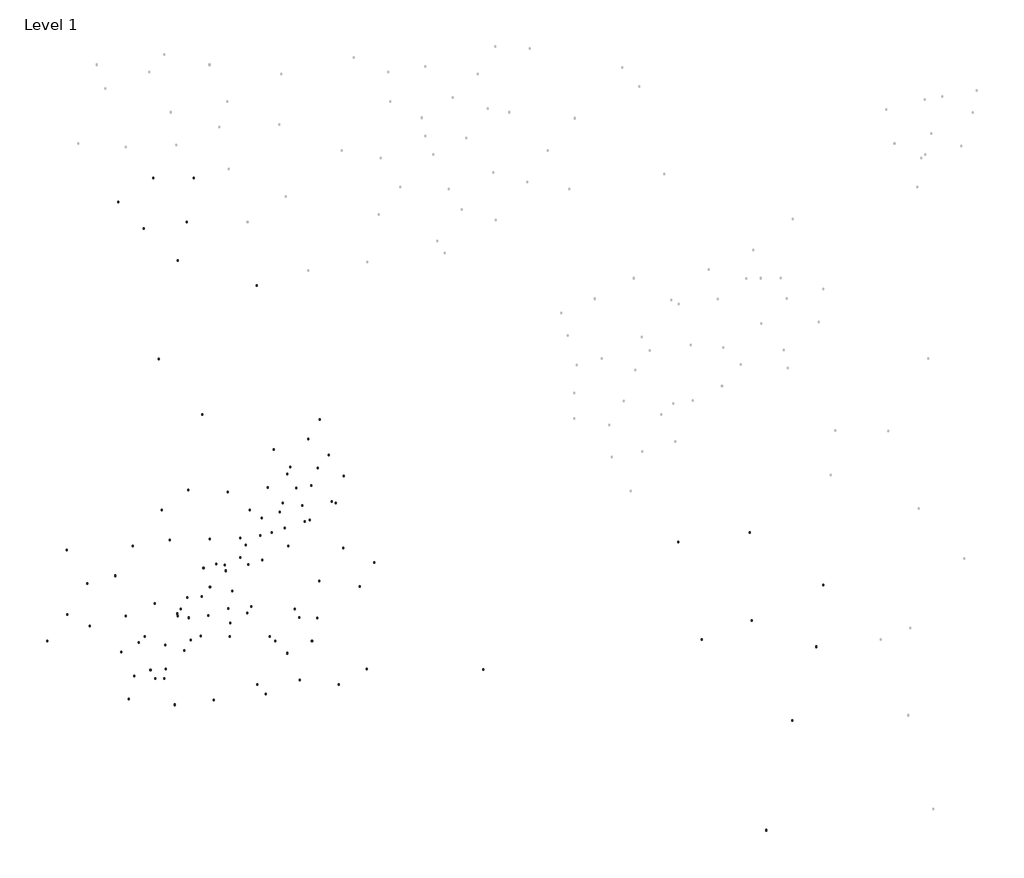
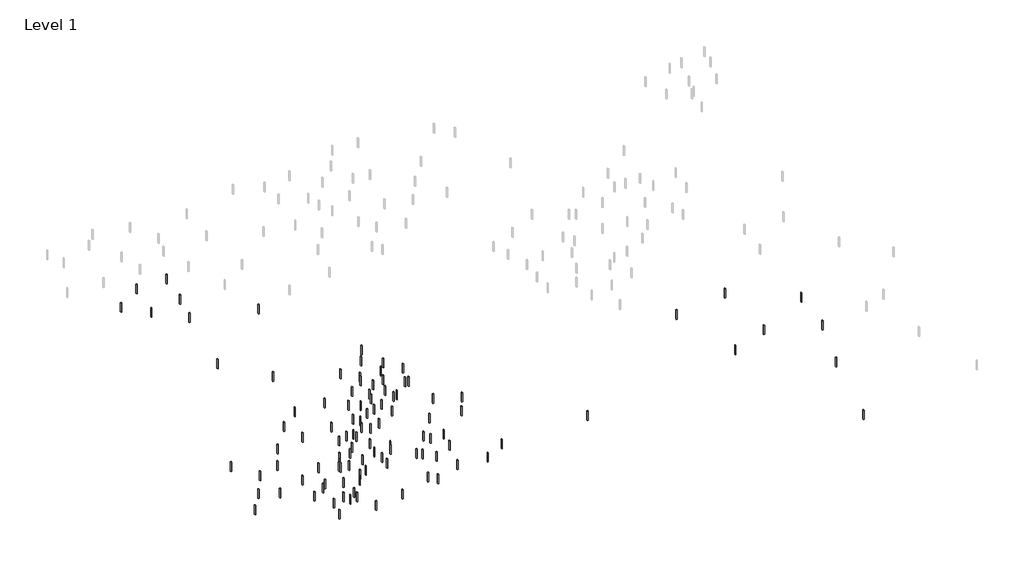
# One storey, part 1 of 3: 110 columns.
"""IFC4 building model written with IfcOpenShell, lengths in millimetres."""

from ifc_helpers import new_model, si_unit, origin, place, context, project, spatial, transform, mapped, element, save
from components import concrete_rectangular_column_12_x_18_4e544043

model = new_model("IFC4")

# Units and contexts
model_context = context("Model", 3, world=origin())
ifc_project = project(units=[si_unit("LENGTHUNIT", "METRE", prefix="MILLI")], contexts=[model_context])

# Site, building, storey
site = spatial("IfcSite", under=ifc_project)
building = spatial("IfcBuilding", under=site)
storey = spatial("IfcBuildingStorey", under=building, Name="Level 1", Elevation=0.0)

# Columns
placement = place(None, origin())
concrete_rectangular_column_12_x_18_shape = concrete_rectangular_column_12_x_18_4e544043(model_context)
element("IfcColumn", 1, ObjectType="Concrete-Rectangular-Column : 12 x 18", at=placement, inside=storey, context=model_context, shape_type="MappedRepresentation", body=[
    mapped(concrete_rectangular_column_12_x_18_shape, transform((108236.3746611, 134663.9156504, 0.0), x_axis=(1.0, 0.0, 0.0), y_axis=(0.0, 1.0, 0.0), z_axis=(0.0, 0.0, 1.0))),
])
element("IfcColumn", 2, ObjectType="Concrete-Rectangular-Column : 12 x 18", at=placement, inside=storey, context=model_context, shape_type="MappedRepresentation", body=[
    mapped(concrete_rectangular_column_12_x_18_shape, transform((96676.8386469, 121200.4411543, 0.0), x_axis=(1.0, 0.0, 0.0), y_axis=(0.0, 1.0, 0.0), z_axis=(0.0, 0.0, 1.0))),
])
element("IfcColumn", 3, ObjectType="Concrete-Rectangular-Column : 12 x 18", at=placement, inside=storey, context=model_context, shape_type="MappedRepresentation", body=[
    mapped(concrete_rectangular_column_12_x_18_shape, transform((31704.274153, 102630.1315046, 0.0), x_axis=(1.0, 0.0, 0.0), y_axis=(0.0, 1.0, 0.0), z_axis=(0.0, 0.0, 1.0))),
])
element("IfcColumn", 4, ObjectType="Concrete-Rectangular-Column : 12 x 18", at=placement, inside=storey, context=model_context, shape_type="MappedRepresentation", body=[
    mapped(concrete_rectangular_column_12_x_18_shape, transform((41944.8959136, 82237.322074, 0.0), x_axis=(1.0, 0.0, 0.0), y_axis=(0.0, 1.0, 0.0), z_axis=(0.0, 0.0, 1.0))),
])
element("IfcColumn", 5, ObjectType="Concrete-Rectangular-Column : 12 x 18", at=placement, inside=storey, context=model_context, shape_type="MappedRepresentation", body=[
    mapped(concrete_rectangular_column_12_x_18_shape, transform((19746.1334487, 85452.5950785, 0.0), x_axis=(1.0, 0.0, 0.0), y_axis=(0.0, 1.0, 0.0), z_axis=(0.0, 0.0, 1.0))),
])
element("IfcColumn", 6, ObjectType="Concrete-Rectangular-Column : 12 x 18", at=placement, inside=storey, context=model_context, shape_type="MappedRepresentation", body=[
    mapped(concrete_rectangular_column_12_x_18_shape, transform((57889.0835194, 66452.5588717, 0.0), x_axis=(1.0, 0.0, 0.0), y_axis=(0.0, 1.0, 0.0), z_axis=(0.0, 0.0, 1.0))),
])
element("IfcColumn", 7, ObjectType="Concrete-Rectangular-Column : 12 x 18", at=placement, inside=storey, context=model_context, shape_type="MappedRepresentation", body=[
    mapped(concrete_rectangular_column_12_x_18_shape, transform((54700.2459982, 74344.9404728, 0.0), x_axis=(1.0, 0.0, 0.0), y_axis=(0.0, 1.0, 0.0), z_axis=(0.0, 0.0, 1.0))),
])
element("IfcColumn", 8, ObjectType="Concrete-Rectangular-Column : 12 x 18", at=placement, inside=storey, context=model_context, shape_type="MappedRepresentation", body=[
    mapped(concrete_rectangular_column_12_x_18_shape, transform((60679.3163504, 82701.5798152, 0.0), x_axis=(1.0, 0.0, 0.0), y_axis=(0.0, 1.0, 0.0), z_axis=(0.0, 0.0, 1.0))),
])
element("IfcColumn", 9, ObjectType="Concrete-Rectangular-Column : 12 x 18", at=placement, inside=storey, context=model_context, shape_type="MappedRepresentation", body=[
    mapped(concrete_rectangular_column_12_x_18_shape, transform((69448.6195336, 67845.3320954, 0.0), x_axis=(1.0, 0.0, 0.0), y_axis=(0.0, 1.0, 0.0), z_axis=(0.0, 0.0, 1.0))),
])
element("IfcColumn", 10, ObjectType="Concrete-Rectangular-Column : 12 x 18", at=placement, inside=storey, context=model_context, shape_type="MappedRepresentation", body=[
    mapped(concrete_rectangular_column_12_x_18_shape, transform((84994.2024493, 69702.3630604, 0.0), x_axis=(1.0, 0.0, 0.0), y_axis=(0.0, 1.0, 0.0), z_axis=(0.0, 0.0, 1.0))),
])
element("IfcColumn", 11, ObjectType="Concrete-Rectangular-Column : 12 x 18", at=placement, inside=storey, context=model_context, shape_type="MappedRepresentation", body=[
    mapped(concrete_rectangular_column_12_x_18_shape, transform((86190.0165198, 86879.8994864, 0.0), x_axis=(1.0, 0.0, 0.0), y_axis=(0.0, 1.0, 0.0), z_axis=(0.0, 0.0, 1.0))),
])
element("IfcColumn", 12, ObjectType="Concrete-Rectangular-Column : 12 x 18", at=placement, inside=storey, context=model_context, shape_type="MappedRepresentation", body=[
    mapped(concrete_rectangular_column_12_x_18_shape, transform((82469.1412254, 72440.8426473, 0.0), x_axis=(1.0, 0.0, 0.0), y_axis=(0.0, 1.0, 0.0), z_axis=(0.0, 0.0, 1.0))),
])
element("IfcColumn", 13, ObjectType="Concrete-Rectangular-Column : 12 x 18", at=placement, inside=storey, context=model_context, shape_type="MappedRepresentation", body=[
    mapped(concrete_rectangular_column_12_x_18_shape, transform((61599.625914, 98451.8118334, 0.0), x_axis=(1.0, 0.0, 0.0), y_axis=(0.0, 1.0, 0.0), z_axis=(0.0, 0.0, 1.0))),
])
element("IfcColumn", 14, ObjectType="Concrete-Rectangular-Column : 12 x 18", at=placement, inside=storey, context=model_context, shape_type="MappedRepresentation", body=[
    mapped(concrete_rectangular_column_12_x_18_shape, transform((61998.2306042, 92416.4611972, 0.0), x_axis=(1.0, 0.0, 0.0), y_axis=(0.0, 1.0, 0.0), z_axis=(0.0, 0.0, 1.0))),
])
element("IfcColumn", 15, ObjectType="Concrete-Rectangular-Column : 12 x 18", at=placement, inside=storey, context=model_context, shape_type="MappedRepresentation", body=[
    mapped(concrete_rectangular_column_12_x_18_shape, transform((72760.5572381, 108201.2243995, 0.0), x_axis=(1.0, 0.0, 0.0), y_axis=(0.0, 1.0, 0.0), z_axis=(0.0, 0.0, 1.0))),
])
element("IfcColumn", 16, ObjectType="Concrete-Rectangular-Column : 12 x 18", at=placement, inside=storey, context=model_context, shape_type="MappedRepresentation", body=[
    mapped(concrete_rectangular_column_12_x_18_shape, transform((63576.4818912, 223629.5995326, 0.0), x_axis=(1.0, 0.0, 0.0), y_axis=(0.0, 1.0, 0.0), z_axis=(0.0, 0.0, 1.0))),
])
element("IfcColumn", 17, ObjectType="Concrete-Rectangular-Column : 12 x 18", at=placement, inside=storey, context=model_context, shape_type="MappedRepresentation", body=[
    mapped(concrete_rectangular_column_12_x_18_shape, transform((51386.5691187, 223629.5995326, 0.0), x_axis=(1.0, 0.0, 0.0), y_axis=(0.0, 1.0, 0.0), z_axis=(0.0, 0.0, 1.0))),
])
element("IfcColumn", 18, ObjectType="Concrete-Rectangular-Column : 12 x 18", at=placement, inside=storey, context=model_context, shape_type="MappedRepresentation", body=[
    mapped(concrete_rectangular_column_12_x_18_shape, transform((40938.0724565, 216539.5428211, 0.0), x_axis=(1.0, 0.0, 0.0), y_axis=(0.0, 1.0, 0.0), z_axis=(0.0, 0.0, 1.0))),
])
element("IfcColumn", 19, ObjectType="Concrete-Rectangular-Column : 12 x 18", at=placement, inside=storey, context=model_context, shape_type="MappedRepresentation", body=[
    mapped(concrete_rectangular_column_12_x_18_shape, transform((230093.2144375, 91589.9851363, 0.0), x_axis=(1.0, 0.0, 0.0), y_axis=(0.0, 1.0, 0.0), z_axis=(0.0, 0.0, 1.0))),
])
element("IfcColumn", 20, ObjectType="Concrete-Rectangular-Column : 12 x 18", at=placement, inside=storey, context=model_context, shape_type="MappedRepresentation", body=[
    mapped(concrete_rectangular_column_12_x_18_shape, transform((251430.6150021, 102258.6854186, 0.0), x_axis=(1.0, 0.0, 0.0), y_axis=(0.0, 1.0, 0.0), z_axis=(0.0, 0.0, 1.0))),
])
element("IfcColumn", 21, ObjectType="Concrete-Rectangular-Column : 12 x 18", at=placement, inside=storey, context=model_context, shape_type="MappedRepresentation", body=[
    mapped(concrete_rectangular_column_12_x_18_shape, transform((249296.8749457, 83766.2715959, 0.0), x_axis=(1.0, 0.0, 0.0), y_axis=(0.0, 1.0, 0.0), z_axis=(0.0, 0.0, 1.0))),
])
element("IfcColumn", 22, ObjectType="Concrete-Rectangular-Column : 12 x 18", at=placement, inside=storey, context=model_context, shape_type="MappedRepresentation", body=[
    mapped(concrete_rectangular_column_12_x_18_shape, transform((149945.4490928, 76975.347726, 0.0), x_axis=(1.0, 0.0, 0.0), y_axis=(0.0, 1.0, 0.0), z_axis=(0.0, 0.0, 1.0))),
])
element("IfcColumn", 23, ObjectType="Concrete-Rectangular-Column : 12 x 18", at=placement, inside=storey, context=model_context, shape_type="MappedRepresentation", body=[
    mapped(concrete_rectangular_column_12_x_18_shape, transform((234360.6945504, 29000.2768134, 0.0), x_axis=(1.0, 0.0, 0.0), y_axis=(0.0, 1.0, 0.0), z_axis=(0.0, 0.0, 1.0))),
])
element("IfcColumn", 24, ObjectType="Concrete-Rectangular-Column : 12 x 18", at=placement, inside=storey, context=model_context, shape_type="MappedRepresentation", body=[
    mapped(concrete_rectangular_column_12_x_18_shape, transform((106784.0273243, 72440.8426473, 0.0), x_axis=(1.0, 0.0, 0.0), y_axis=(0.0, 1.0, 0.0), z_axis=(0.0, 0.0, 1.0))),
])
element("IfcColumn", 25, ObjectType="Concrete-Rectangular-Column : 12 x 18", at=placement, inside=storey, context=model_context, shape_type="MappedRepresentation", body=[
    mapped(concrete_rectangular_column_12_x_18_shape, transform((98811.9335214, 85440.0594021, 0.0), x_axis=(1.0, 0.0, 0.0), y_axis=(0.0, 1.0, 0.0), z_axis=(0.0, 0.0, 1.0))),
])
element("IfcColumn", 26, ObjectType="Concrete-Rectangular-Column : 12 x 18", at=placement, inside=storey, context=model_context, shape_type="MappedRepresentation", body=[
    mapped(concrete_rectangular_column_12_x_18_shape, transform((115154.7258174, 77083.4200597, 0.0), x_axis=(1.0, 0.0, 0.0), y_axis=(0.0, 1.0, 0.0), z_axis=(0.0, 0.0, 1.0))),
])
element("IfcColumn", 27, ObjectType="Concrete-Rectangular-Column : 12 x 18", at=placement, inside=storey, context=model_context, shape_type="MappedRepresentation", body=[
    mapped(concrete_rectangular_column_12_x_18_shape, transform((95224.4913101, 73833.615871, 0.0), x_axis=(1.0, 0.0, 0.0), y_axis=(0.0, 1.0, 0.0), z_axis=(0.0, 0.0, 1.0))),
])
element("IfcColumn", 28, ObjectType="Concrete-Rectangular-Column : 12 x 18", at=placement, inside=storey, context=model_context, shape_type="MappedRepresentation", body=[
    mapped(concrete_rectangular_column_12_x_18_shape, transform((100406.352282, 92403.9255208, 0.0), x_axis=(1.0, 0.0, 0.0), y_axis=(0.0, 1.0, 0.0), z_axis=(0.0, 0.0, 1.0))),
])
element("IfcColumn", 29, ObjectType="Concrete-Rectangular-Column : 12 x 18", at=placement, inside=storey, context=model_context, shape_type="MappedRepresentation", body=[
    mapped(concrete_rectangular_column_12_x_18_shape, transform((215157.0340423, 85900.0116524, 0.0), x_axis=(1.0, 0.0, 0.0), y_axis=(0.0, 1.0, 0.0), z_axis=(0.0, 0.0, 1.0))),
])
element("IfcColumn", 30, ObjectType="Concrete-Rectangular-Column : 12 x 18", at=placement, inside=storey, context=model_context, shape_type="MappedRepresentation", body=[
    mapped(concrete_rectangular_column_12_x_18_shape, transform((208044.5671874, 115061.1257573, 0.0), x_axis=(1.0, 0.0, 0.0), y_axis=(0.0, 1.0, 0.0), z_axis=(0.0, 0.0, 1.0))),
])
element("IfcColumn", 31, ObjectType="Concrete-Rectangular-Column : 12 x 18", at=placement, inside=storey, context=model_context, shape_type="MappedRepresentation", body=[
    mapped(concrete_rectangular_column_12_x_18_shape, transform((113019.6309429, 101701.6160221, 0.0), x_axis=(1.0, 0.0, 0.0), y_axis=(0.0, 1.0, 0.0), z_axis=(0.0, 0.0, 1.0))),
])
element("IfcColumn", 32, ObjectType="Concrete-Rectangular-Column : 12 x 18", at=placement, inside=storey, context=model_context, shape_type="MappedRepresentation", body=[
    mapped(concrete_rectangular_column_12_x_18_shape, transform((242184.4080908, 61717.6243458, 0.0), x_axis=(1.0, 0.0, 0.0), y_axis=(0.0, 1.0, 0.0), z_axis=(0.0, 0.0, 1.0))),
])
element("IfcColumn", 33, ObjectType="Concrete-Rectangular-Column : 12 x 18", at=placement, inside=storey, context=model_context, shape_type="MappedRepresentation", body=[
    mapped(concrete_rectangular_column_12_x_18_shape, transform((229381.967752, 117906.1124993, 0.0), x_axis=(1.0, 0.0, 0.0), y_axis=(0.0, 1.0, 0.0), z_axis=(0.0, 0.0, 1.0))),
])
element("IfcColumn", 34, ObjectType="Concrete-Rectangular-Column : 12 x 18", at=placement, inside=storey, context=model_context, shape_type="MappedRepresentation", body=[
    mapped(concrete_rectangular_column_12_x_18_shape, transform((66029.3219043, 153126.1161567, 0.0), x_axis=(1.0, 0.0, 0.0), y_axis=(0.0, 1.0, 0.0), z_axis=(0.0, 0.0, 1.0))),
])
element("IfcColumn", 35, ObjectType="Concrete-Rectangular-Column : 12 x 18", at=placement, inside=storey, context=model_context, shape_type="MappedRepresentation", body=[
    mapped(concrete_rectangular_column_12_x_18_shape, transform((79536.8369706, 93809.2344209, 0.0), x_axis=(1.0, 0.0, 0.0), y_axis=(0.0, 1.0, 0.0), z_axis=(0.0, 0.0, 1.0))),
])
element("IfcColumn", 36, ObjectType="Concrete-Rectangular-Column : 12 x 18", at=placement, inside=storey, context=model_context, shape_type="MappedRepresentation", body=[
    mapped(concrete_rectangular_column_12_x_18_shape, transform((74231.8758154, 86879.8994864, 0.0), x_axis=(1.0, 0.0, 0.0), y_axis=(0.0, 1.0, 0.0), z_axis=(0.0, 0.0, 1.0))),
])
element("IfcColumn", 37, ObjectType="Concrete-Rectangular-Column : 12 x 18", at=placement, inside=storey, context=model_context, shape_type="MappedRepresentation", body=[
    mapped(concrete_rectangular_column_12_x_18_shape, transform((43263.8101673, 92880.7189384, 0.0), x_axis=(1.0, 0.0, 0.0), y_axis=(0.0, 1.0, 0.0), z_axis=(0.0, 0.0, 1.0))),
])
element("IfcColumn", 38, ObjectType="Concrete-Rectangular-Column : 12 x 18", at=placement, inside=storey, context=model_context, shape_type="MappedRepresentation", body=[
    mapped(concrete_rectangular_column_12_x_18_shape, transform((58686.2928997, 92915.2501226, 0.0), x_axis=(1.0, 0.0, 0.0), y_axis=(0.0, 1.0, 0.0), z_axis=(0.0, 0.0, 1.0))),
])
element("IfcColumn", 39, ObjectType="Concrete-Rectangular-Column : 12 x 18", at=placement, inside=storey, context=model_context, shape_type="MappedRepresentation", body=[
    mapped(concrete_rectangular_column_12_x_18_shape, transform((47126.7568855, 85022.8685215, 0.0), x_axis=(1.0, 0.0, 0.0), y_axis=(0.0, 1.0, 0.0), z_axis=(0.0, 0.0, 1.0))),
])
element("IfcColumn", 40, ObjectType="Concrete-Rectangular-Column : 12 x 18", at=placement, inside=storey, context=model_context, shape_type="MappedRepresentation", body=[
    mapped(concrete_rectangular_column_12_x_18_shape, transform((25725.2038008, 93344.9766797, 0.0), x_axis=(1.0, 0.0, 0.0), y_axis=(0.0, 1.0, 0.0), z_axis=(0.0, 0.0, 1.0))),
])
element("IfcColumn", 41, ObjectType="Concrete-Rectangular-Column : 12 x 18", at=placement, inside=storey, context=model_context, shape_type="MappedRepresentation", body=[
    mapped(concrete_rectangular_column_12_x_18_shape, transform((40074.9726461, 104951.4202108, 0.0), x_axis=(1.0, 0.0, 0.0), y_axis=(0.0, 1.0, 0.0), z_axis=(0.0, 0.0, 1.0))),
])
element("IfcColumn", 42, ObjectType="Concrete-Rectangular-Column : 12 x 18", at=placement, inside=storey, context=model_context, shape_type="MappedRepresentation", body=[
    mapped(concrete_rectangular_column_12_x_18_shape, transform((45256.833618, 113772.3172944, 0.0), x_axis=(1.0, 0.0, 0.0), y_axis=(0.0, 1.0, 0.0), z_axis=(0.0, 0.0, 1.0))),
])
element("IfcColumn", 43, ObjectType="Concrete-Rectangular-Column : 12 x 18", at=placement, inside=storey, context=model_context, shape_type="MappedRepresentation", body=[
    mapped(concrete_rectangular_column_12_x_18_shape, transform((56417.7649421, 115629.3482594, 0.0), x_axis=(1.0, 0.0, 0.0), y_axis=(0.0, 1.0, 0.0), z_axis=(0.0, 0.0, 1.0))),
])
element("IfcColumn", 44, ObjectType="Concrete-Rectangular-Column : 12 x 18", at=placement, inside=storey, context=model_context, shape_type="MappedRepresentation", body=[
    mapped(concrete_rectangular_column_12_x_18_shape, transform((53127.9852291, 169636.0907297, 0.0), x_axis=(1.0, 0.0, 0.0), y_axis=(0.0, 1.0, 0.0), z_axis=(0.0, 0.0, 1.0))),
])
element("IfcColumn", 45, ObjectType="Concrete-Rectangular-Column : 12 x 18", at=placement, inside=storey, context=model_context, shape_type="MappedRepresentation", body=[
    mapped(concrete_rectangular_column_12_x_18_shape, transform((51941.6023645, 96601.7901574, 0.0), x_axis=(1.0, 0.0, 0.0), y_axis=(0.0, 1.0, 0.0), z_axis=(0.0, 0.0, 1.0))),
])
element("IfcColumn", 46, ObjectType="Concrete-Rectangular-Column : 12 x 18", at=placement, inside=storey, context=model_context, shape_type="MappedRepresentation", body=[
    mapped(concrete_rectangular_column_12_x_18_shape, transform((32507.42189, 89944.3991654, 0.0), x_axis=(1.0, 0.0, 0.0), y_axis=(0.0, 1.0, 0.0), z_axis=(0.0, 0.0, 1.0))),
])
element("IfcColumn", 47, ObjectType="Concrete-Rectangular-Column : 12 x 18", at=placement, inside=storey, context=model_context, shape_type="MappedRepresentation", body=[
    mapped(concrete_rectangular_column_12_x_18_shape, transform((73662.1570126, 129888.7451172, 0.0), x_axis=(1.0, 0.0, 0.0), y_axis=(0.0, 1.0, 0.0), z_axis=(0.0, 0.0, 1.0))),
])
element("IfcColumn", 48, ObjectType="Concrete-Rectangular-Column : 12 x 18", at=placement, inside=storey, context=model_context, shape_type="MappedRepresentation", body=[
    mapped(concrete_rectangular_column_12_x_18_shape, transform((25648.2993696, 112579.5285381, 0.0), x_axis=(1.0, 0.0, 0.0), y_axis=(0.0, 1.0, 0.0), z_axis=(0.0, 0.0, 1.0))),
])
element("IfcColumn", 49, ObjectType="Concrete-Rectangular-Column : 12 x 18", at=placement, inside=storey, context=model_context, shape_type="MappedRepresentation", body=[
    mapped(concrete_rectangular_column_12_x_18_shape, transform((44071.5228678, 68237.1238954, 0.0), x_axis=(1.0, 0.0, 0.0), y_axis=(0.0, 1.0, 0.0), z_axis=(0.0, 0.0, 1.0))),
])
element("IfcColumn", 50, ObjectType="Concrete-Rectangular-Column : 12 x 18", at=placement, inside=storey, context=model_context, shape_type="MappedRepresentation", body=[
    mapped(concrete_rectangular_column_12_x_18_shape, transform((61386.9398689, 210478.9144885, 0.0), x_axis=(1.0, 0.0, 0.0), y_axis=(0.0, 1.0, 0.0), z_axis=(0.0, 0.0, 1.0))),
])
element("IfcColumn", 51, ObjectType="Concrete-Rectangular-Column : 12 x 18", at=placement, inside=storey, context=model_context, shape_type="MappedRepresentation", body=[
    mapped(concrete_rectangular_column_12_x_18_shape, transform((58693.8048854, 199092.2719081, 0.0), x_axis=(1.0, 0.0, 0.0), y_axis=(0.0, 1.0, 0.0), z_axis=(0.0, 0.0, 1.0))),
])
element("IfcColumn", 52, ObjectType="Concrete-Rectangular-Column : 12 x 18", at=placement, inside=storey, context=model_context, shape_type="MappedRepresentation", body=[
    mapped(concrete_rectangular_column_12_x_18_shape, transform((48594.5486974, 208581.1407251, 0.0), x_axis=(1.0, 0.0, 0.0), y_axis=(0.0, 1.0, 0.0), z_axis=(0.0, 0.0, 1.0))),
])
element("IfcColumn", 53, ObjectType="Concrete-Rectangular-Column : 12 x 18", at=placement, inside=storey, context=model_context, shape_type="MappedRepresentation", body=[
    mapped(concrete_rectangular_column_12_x_18_shape, transform((117344.9170358, 108953.0367563, 0.0), x_axis=(1.0, 0.0, 0.0), y_axis=(0.0, 1.0, 0.0), z_axis=(0.0, 0.0, 1.0))),
])
element("IfcColumn", 54, ObjectType="Concrete-Rectangular-Column : 12 x 18", at=placement, inside=storey, context=model_context, shape_type="MappedRepresentation", body=[
    mapped(concrete_rectangular_column_12_x_18_shape, transform((108098.1646724, 113260.9402729, 0.0), x_axis=(1.0, 0.0, 0.0), y_axis=(0.0, 1.0, 0.0), z_axis=(0.0, 0.0, 1.0))),
])
element("IfcColumn", 55, ObjectType="Concrete-Rectangular-Column : 12 x 18", at=placement, inside=storey, context=model_context, shape_type="MappedRepresentation", body=[
    mapped(concrete_rectangular_column_12_x_18_shape, transform((93644.789446, 94969.2809668, 0.0), x_axis=(1.0, 0.0, 0.0), y_axis=(0.0, 1.0, 0.0), z_axis=(0.0, 0.0, 1.0))),
])
element("IfcColumn", 56, ObjectType="Concrete-Rectangular-Column : 12 x 18", at=placement, inside=storey, context=model_context, shape_type="MappedRepresentation", body=[
    mapped(concrete_rectangular_column_12_x_18_shape, transform((48918.9495469, 86875.0312336, 0.0), x_axis=(1.0, 0.0, 0.0), y_axis=(0.0, 1.0, 0.0), z_axis=(0.0, 0.0, 1.0))),
])
element("IfcColumn", 57, ObjectType="Concrete-Rectangular-Column : 12 x 18", at=placement, inside=storey, context=model_context, shape_type="MappedRepresentation", body=[
    mapped(concrete_rectangular_column_12_x_18_shape, transform((54004.6633467, 124569.187004, 0.0), x_axis=(1.0, 0.0, 0.0), y_axis=(0.0, 1.0, 0.0), z_axis=(0.0, 0.0, 1.0))),
])
element("IfcColumn", 58, ObjectType="Concrete-Rectangular-Column : 12 x 18", at=placement, inside=storey, context=model_context, shape_type="MappedRepresentation", body=[
    mapped(concrete_rectangular_column_12_x_18_shape, transform((61864.4028556, 130492.5543394, 0.0), x_axis=(1.0, 0.0, 0.0), y_axis=(0.0, 1.0, 0.0), z_axis=(0.0, 0.0, 1.0))),
])
element("IfcColumn", 59, ObjectType="Concrete-Rectangular-Column : 12 x 18", at=placement, inside=storey, context=model_context, shape_type="MappedRepresentation", body=[
    mapped(concrete_rectangular_column_12_x_18_shape, transform((68337.12951, 115953.3799708, 0.0), x_axis=(1.0, 0.0, 0.0), y_axis=(0.0, 1.0, 0.0), z_axis=(0.0, 0.0, 1.0))),
])
element("IfcColumn", 60, ObjectType="Concrete-Rectangular-Column : 12 x 18", at=placement, inside=storey, context=model_context, shape_type="MappedRepresentation", body=[
    mapped(concrete_rectangular_column_12_x_18_shape, transform((82373.7402735, 191499.6992398, 0.0), x_axis=(1.0, 0.0, 0.0), y_axis=(0.0, 1.0, 0.0), z_axis=(0.0, 0.0, 1.0))),
])
element("IfcColumn", 61, ObjectType="Concrete-Rectangular-Column : 12 x 18", at=placement, inside=storey, context=model_context, shape_type="MappedRepresentation", body=[
    mapped(concrete_rectangular_column_12_x_18_shape, transform((92388.3073717, 137432.4060734, 0.0), x_axis=(1.0, 0.0, 0.0), y_axis=(0.0, 1.0, 0.0), z_axis=(0.0, 0.0, 1.0))),
])
element("IfcColumn", 62, ObjectType="Concrete-Rectangular-Column : 12 x 18", at=placement, inside=storey, context=model_context, shape_type="MappedRepresentation", body=[
    mapped(concrete_rectangular_column_12_x_18_shape, transform((83400.4640745, 116932.1702137, 0.0), x_axis=(1.0, 0.0, 0.0), y_axis=(0.0, 1.0, 0.0), z_axis=(0.0, 0.0, 1.0))),
])
element("IfcColumn", 63, ObjectType="Concrete-Rectangular-Column : 12 x 18", at=placement, inside=storey, context=model_context, shape_type="MappedRepresentation", body=[
    mapped(concrete_rectangular_column_12_x_18_shape, transform((101001.6571982, 103410.7380509, 0.0), x_axis=(1.0, 0.0, 0.0), y_axis=(0.0, 1.0, 0.0), z_axis=(0.0, 0.0, 1.0))),
])
element("IfcColumn", 64, ObjectType="Concrete-Rectangular-Column : 12 x 18", at=placement, inside=storey, context=model_context, shape_type="MappedRepresentation", body=[
    mapped(concrete_rectangular_column_12_x_18_shape, transform((95040.0189474, 92483.5400474, 0.0), x_axis=(1.0, 0.0, 0.0), y_axis=(0.0, 1.0, 0.0), z_axis=(0.0, 0.0, 1.0))),
])
element("IfcColumn", 65, ObjectType="Concrete-Rectangular-Column : 12 x 18", at=placement, inside=storey, context=model_context, shape_type="MappedRepresentation", body=[
    mapped(concrete_rectangular_column_12_x_18_shape, transform((91416.697091, 81818.1476752, 0.0), x_axis=(1.0, 0.0, 0.0), y_axis=(0.0, 1.0, 0.0), z_axis=(0.0, 0.0, 1.0))),
])
element("IfcColumn", 66, ObjectType="Concrete-Rectangular-Column : 12 x 18", at=placement, inside=storey, context=model_context, shape_type="MappedRepresentation", body=[
    mapped(concrete_rectangular_column_12_x_18_shape, transform((87894.3857231, 85527.5535775, 0.0), x_axis=(1.0, 0.0, 0.0), y_axis=(0.0, 1.0, 0.0), z_axis=(0.0, 0.0, 1.0))),
])
element("IfcColumn", 67, ObjectType="Concrete-Rectangular-Column : 12 x 18", at=placement, inside=storey, context=model_context, shape_type="MappedRepresentation", body=[
    mapped(concrete_rectangular_column_12_x_18_shape, transform((67833.8193272, 93069.0402379, 0.0), x_axis=(1.0, 0.0, 0.0), y_axis=(0.0, 1.0, 0.0), z_axis=(0.0, 0.0, 1.0))),
])
element("IfcColumn", 68, ObjectType="Concrete-Rectangular-Column : 12 x 18", at=placement, inside=storey, context=model_context, shape_type="MappedRepresentation", body=[
    mapped(concrete_rectangular_column_12_x_18_shape, transform((68375.1007284, 101583.2829962, 0.0), x_axis=(1.0, 0.0, 0.0), y_axis=(0.0, 1.0, 0.0), z_axis=(0.0, 0.0, 1.0))),
])
element("IfcColumn", 69, ObjectType="Concrete-Rectangular-Column : 12 x 18", at=placement, inside=storey, context=model_context, shape_type="MappedRepresentation", body=[
    mapped(concrete_rectangular_column_12_x_18_shape, transform((77365.8001909, 110391.8827056, 0.0), x_axis=(1.0, 0.0, 0.0), y_axis=(0.0, 1.0, 0.0), z_axis=(0.0, 0.0, 1.0))),
])
element("IfcColumn", 70, ObjectType="Concrete-Rectangular-Column : 12 x 18", at=placement, inside=storey, context=model_context, shape_type="MappedRepresentation", body=[
    mapped(concrete_rectangular_column_12_x_18_shape, transform((79028.8010206, 114112.792373, 0.0), x_axis=(1.0, 0.0, 0.0), y_axis=(0.0, 1.0, 0.0), z_axis=(0.0, 0.0, 1.0))),
])
element("IfcColumn", 71, ObjectType="Concrete-Rectangular-Column : 12 x 18", at=placement, inside=storey, context=model_context, shape_type="MappedRepresentation", body=[
    mapped(concrete_rectangular_column_12_x_18_shape, transform((86850.9450125, 117915.8379075, 0.0), x_axis=(1.0, 0.0, 0.0), y_axis=(0.0, 1.0, 0.0), z_axis=(0.0, 0.0, 1.0))),
])
element("IfcColumn", 72, ObjectType="Concrete-Rectangular-Column : 12 x 18", at=placement, inside=storey, context=model_context, shape_type="MappedRepresentation", body=[
    mapped(concrete_rectangular_column_12_x_18_shape, transform((90098.5207464, 126713.5271722, 0.0), x_axis=(1.0, 0.0, 0.0), y_axis=(0.0, 1.0, 0.0), z_axis=(0.0, 0.0, 1.0))),
])
element("IfcColumn", 73, ObjectType="Concrete-Rectangular-Column : 12 x 18", at=placement, inside=storey, context=model_context, shape_type="MappedRepresentation", body=[
    mapped(concrete_rectangular_column_12_x_18_shape, transform((95939.3519611, 125866.4827085, 0.0), x_axis=(1.0, 0.0, 0.0), y_axis=(0.0, 1.0, 0.0), z_axis=(0.0, 0.0, 1.0))),
])
element("IfcColumn", 74, ObjectType="Concrete-Rectangular-Column : 12 x 18", at=placement, inside=storey, context=model_context, shape_type="MappedRepresentation", body=[
    mapped(concrete_rectangular_column_12_x_18_shape, transform((105904.1793758, 126718.6336375, 0.0), x_axis=(1.0, 0.0, 0.0), y_axis=(0.0, 1.0, 0.0), z_axis=(0.0, 0.0, 1.0))),
])
element("IfcColumn", 75, ObjectType="Concrete-Rectangular-Column : 12 x 18", at=placement, inside=storey, context=model_context, shape_type="MappedRepresentation", body=[
    mapped(concrete_rectangular_column_12_x_18_shape, transform((45772.386746, 75057.8611768, 0.0), x_axis=(1.0, 0.0, 0.0), y_axis=(0.0, 1.0, 0.0), z_axis=(0.0, 0.0, 1.0))),
])
element("IfcColumn", 76, ObjectType="Concrete-Rectangular-Column : 12 x 18", at=placement, inside=storey, context=model_context, shape_type="MappedRepresentation", body=[
    mapped(concrete_rectangular_column_12_x_18_shape, transform((50616.6977086, 76799.3217837, 0.0), x_axis=(1.0, 0.0, 0.0), y_axis=(0.0, 1.0, 0.0), z_axis=(0.0, 0.0, 1.0))),
])
element("IfcColumn", 77, ObjectType="Concrete-Rectangular-Column : 12 x 18", at=placement, inside=storey, context=model_context, shape_type="MappedRepresentation", body=[
    mapped(concrete_rectangular_column_12_x_18_shape, transform((55023.0090328, 84262.3912236, 0.0), x_axis=(1.0, 0.0, 0.0), y_axis=(0.0, 1.0, 0.0), z_axis=(0.0, 0.0, 1.0))),
])
element("IfcColumn", 78, ObjectType="Concrete-Rectangular-Column : 12 x 18", at=placement, inside=storey, context=model_context, shape_type="MappedRepresentation", body=[
    mapped(concrete_rectangular_column_12_x_18_shape, transform((51962.3825804, 74260.4752903, 0.0), x_axis=(1.0, 0.0, 0.0), y_axis=(0.0, 1.0, 0.0), z_axis=(0.0, 0.0, 1.0))),
])
element("IfcColumn", 79, ObjectType="Concrete-Rectangular-Column : 12 x 18", at=placement, inside=storey, context=model_context, shape_type="MappedRepresentation", body=[
    mapped(concrete_rectangular_column_12_x_18_shape, transform((55183.5180517, 77189.8574183, 0.0), x_axis=(1.0, 0.0, 0.0), y_axis=(0.0, 1.0, 0.0), z_axis=(0.0, 0.0, 1.0))),
])
element("IfcColumn", 80, ObjectType="Concrete-Rectangular-Column : 12 x 18", at=placement, inside=storey, context=model_context, shape_type="MappedRepresentation", body=[
    mapped(concrete_rectangular_column_12_x_18_shape, transform((62574.704551, 85794.89856, 0.0), x_axis=(1.0, 0.0, 0.0), y_axis=(0.0, 1.0, 0.0), z_axis=(0.0, 0.0, 1.0))),
])
element("IfcColumn", 81, ObjectType="Concrete-Rectangular-Column : 12 x 18", at=placement, inside=storey, context=model_context, shape_type="MappedRepresentation", body=[
    mapped(concrete_rectangular_column_12_x_18_shape, transform((73762.4491424, 95185.8299954, 0.0), x_axis=(1.0, 0.0, 0.0), y_axis=(0.0, 1.0, 0.0), z_axis=(0.0, 0.0, 1.0))),
])
element("IfcColumn", 82, ObjectType="Concrete-Rectangular-Column : 12 x 18", at=placement, inside=storey, context=model_context, shape_type="MappedRepresentation", body=[
    mapped(concrete_rectangular_column_12_x_18_shape, transform((65555.9944881, 86936.7716902, 0.0), x_axis=(1.0, 0.0, 0.0), y_axis=(0.0, 1.0, 0.0), z_axis=(0.0, 0.0, 1.0))),
])
element("IfcColumn", 83, ObjectType="Concrete-Rectangular-Column : 12 x 18", at=placement, inside=storey, context=model_context, shape_type="MappedRepresentation", body=[
    mapped(concrete_rectangular_column_12_x_18_shape, transform((74471.3343423, 90805.0533127, 0.0), x_axis=(1.0, 0.0, 0.0), y_axis=(0.0, 1.0, 0.0), z_axis=(0.0, 0.0, 1.0))),
])
element("IfcColumn", 84, ObjectType="Concrete-Rectangular-Column : 12 x 18", at=placement, inside=storey, context=model_context, shape_type="MappedRepresentation", body=[
    mapped(concrete_rectangular_column_12_x_18_shape, transform((80627.5597761, 95772.9059337, 0.0), x_axis=(1.0, 0.0, 0.0), y_axis=(0.0, 1.0, 0.0), z_axis=(0.0, 0.0, 1.0))),
])
element("IfcColumn", 85, ObjectType="Concrete-Rectangular-Column : 12 x 18", at=placement, inside=storey, context=model_context, shape_type="MappedRepresentation", body=[
    mapped(concrete_rectangular_column_12_x_18_shape, transform((79817.0793569, 108366.53233, 0.0), x_axis=(1.0, 0.0, 0.0), y_axis=(0.0, 1.0, 0.0), z_axis=(0.0, 0.0, 1.0))),
])
element("IfcColumn", 86, ObjectType="Concrete-Rectangular-Column : 12 x 18", at=placement, inside=storey, context=model_context, shape_type="MappedRepresentation", body=[
    mapped(concrete_rectangular_column_12_x_18_shape, transform((74997.5074802, 100365.3039312, 0.0), x_axis=(1.0, 0.0, 0.0), y_axis=(0.0, 1.0, 0.0), z_axis=(0.0, 0.0, 1.0))),
])
element("IfcColumn", 87, ObjectType="Concrete-Rectangular-Column : 12 x 18", at=placement, inside=storey, context=model_context, shape_type="MappedRepresentation", body=[
    mapped(concrete_rectangular_column_12_x_18_shape, transform((66431.3179265, 107221.8372376, 0.0), x_axis=(1.0, 0.0, 0.0), y_axis=(0.0, 1.0, 0.0), z_axis=(0.0, 0.0, 1.0))),
])
element("IfcColumn", 88, ObjectType="Concrete-Rectangular-Column : 12 x 18", at=placement, inside=storey, context=model_context, shape_type="MappedRepresentation", body=[
    mapped(concrete_rectangular_column_12_x_18_shape, transform((58575.1885121, 93613.0685334, 0.0), x_axis=(1.0, 0.0, 0.0), y_axis=(0.0, 1.0, 0.0), z_axis=(0.0, 0.0, 1.0))),
])
element("IfcColumn", 89, ObjectType="Concrete-Rectangular-Column : 12 x 18", at=placement, inside=storey, context=model_context, shape_type="MappedRepresentation", body=[
    mapped(concrete_rectangular_column_12_x_18_shape, transform((59623.6696699, 95038.9896331, 0.0), x_axis=(1.0, 0.0, 0.0), y_axis=(0.0, 1.0, 0.0), z_axis=(0.0, 0.0, 1.0))),
])
element("IfcColumn", 90, ObjectType="Concrete-Rectangular-Column : 12 x 18", at=placement, inside=storey, context=model_context, shape_type="MappedRepresentation", body=[
    mapped(concrete_rectangular_column_12_x_18_shape, transform((65891.7945124, 98694.785718, 0.0), x_axis=(1.0, 0.0, 0.0), y_axis=(0.0, 1.0, 0.0), z_axis=(0.0, 0.0, 1.0))),
])
element("IfcColumn", 91, ObjectType="Concrete-Rectangular-Column : 12 x 18", at=placement, inside=storey, context=model_context, shape_type="MappedRepresentation", body=[
    mapped(concrete_rectangular_column_12_x_18_shape, transform((70192.3456966, 108437.2963704, 0.0), x_axis=(1.0, 0.0, 0.0), y_axis=(0.0, 1.0, 0.0), z_axis=(0.0, 0.0, 1.0))),
])
element("IfcColumn", 92, ObjectType="Concrete-Rectangular-Column : 12 x 18", at=placement, inside=storey, context=model_context, shape_type="MappedRepresentation", body=[
    mapped(concrete_rectangular_column_12_x_18_shape, transform((80225.5856532, 124522.7062435, 0.0), x_axis=(1.0, 0.0, 0.0), y_axis=(0.0, 1.0, 0.0), z_axis=(0.0, 0.0, 1.0))),
])
element("IfcColumn", 93, ObjectType="Concrete-Rectangular-Column : 12 x 18", at=placement, inside=storey, context=model_context, shape_type="MappedRepresentation", body=[
    mapped(concrete_rectangular_column_12_x_18_shape, transform((85541.9302385, 131265.2178715, 0.0), x_axis=(1.0, 0.0, 0.0), y_axis=(0.0, 1.0, 0.0), z_axis=(0.0, 0.0, 1.0))),
])
element("IfcColumn", 94, ObjectType="Concrete-Rectangular-Column : 12 x 18", at=placement, inside=storey, context=model_context, shape_type="MappedRepresentation", body=[
    mapped(concrete_rectangular_column_12_x_18_shape, transform((101159.2974857, 151526.9175793, 0.0), x_axis=(1.0, 0.0, 0.0), y_axis=(0.0, 1.0, 0.0), z_axis=(0.0, 0.0, 1.0))),
])
element("IfcColumn", 95, ObjectType="Concrete-Rectangular-Column : 12 x 18", at=placement, inside=storey, context=model_context, shape_type="MappedRepresentation", body=[
    mapped(concrete_rectangular_column_12_x_18_shape, transform((100584.7371076, 137049.3276506, 0.0), x_axis=(1.0, 0.0, 0.0), y_axis=(0.0, 1.0, 0.0), z_axis=(0.0, 0.0, 1.0))),
])
element("IfcColumn", 96, ObjectType="Concrete-Rectangular-Column : 12 x 18", at=placement, inside=storey, context=model_context, shape_type="MappedRepresentation", body=[
    mapped(concrete_rectangular_column_12_x_18_shape, transform((97677.3719431, 145812.0859618, 0.0), x_axis=(1.0, 0.0, 0.0), y_axis=(0.0, 1.0, 0.0), z_axis=(0.0, 0.0, 1.0))),
])
element("IfcColumn", 97, ObjectType="Concrete-Rectangular-Column : 12 x 18", at=placement, inside=storey, context=model_context, shape_type="MappedRepresentation", body=[
    mapped(concrete_rectangular_column_12_x_18_shape, transform((94041.5237496, 131093.1631242, 0.0), x_axis=(1.0, 0.0, 0.0), y_axis=(0.0, 1.0, 0.0), z_axis=(0.0, 0.0, 1.0))),
])
element("IfcColumn", 98, ObjectType="Concrete-Rectangular-Column : 12 x 18", at=placement, inside=storey, context=model_context, shape_type="MappedRepresentation", body=[
    mapped(concrete_rectangular_column_12_x_18_shape, transform((91434.5830925, 135366.876925, 0.0), x_axis=(1.0, 0.0, 0.0), y_axis=(0.0, 1.0, 0.0), z_axis=(0.0, 0.0, 1.0))),
])
element("IfcColumn", 99, ObjectType="Concrete-Rectangular-Column : 12 x 18", at=placement, inside=storey, context=model_context, shape_type="MappedRepresentation", body=[
    mapped(concrete_rectangular_column_12_x_18_shape, transform((87456.684086, 142683.2106336, 0.0), x_axis=(1.0, 0.0, 0.0), y_axis=(0.0, 1.0, 0.0), z_axis=(0.0, 0.0, 1.0))),
])
element("IfcColumn", 100, ObjectType="Concrete-Rectangular-Column : 12 x 18", at=placement, inside=storey, context=model_context, shape_type="MappedRepresentation", body=[
    mapped(concrete_rectangular_column_12_x_18_shape, transform((83860.941577, 122141.9597847, 0.0), x_axis=(1.0, 0.0, 0.0), y_axis=(0.0, 1.0, 0.0), z_axis=(0.0, 0.0, 1.0))),
])
element("IfcColumn", 101, ObjectType="Concrete-Rectangular-Column : 12 x 18", at=placement, inside=storey, context=model_context, shape_type="MappedRepresentation", body=[
    mapped(concrete_rectangular_column_12_x_18_shape, transform((77341.1236315, 116206.8681965, 0.0), x_axis=(1.0, 0.0, 0.0), y_axis=(0.0, 1.0, 0.0), z_axis=(0.0, 0.0, 1.0))),
])
element("IfcColumn", 102, ObjectType="Concrete-Rectangular-Column : 12 x 18", at=placement, inside=storey, context=model_context, shape_type="MappedRepresentation", body=[
    mapped(concrete_rectangular_column_12_x_18_shape, transform((73027.6859663, 106445.5786703, 0.0), x_axis=(1.0, 0.0, 0.0), y_axis=(0.0, 1.0, 0.0), z_axis=(0.0, 0.0, 1.0))),
])
element("IfcColumn", 103, ObjectType="Concrete-Rectangular-Column : 12 x 18", at=placement, inside=storey, context=model_context, shape_type="MappedRepresentation", body=[
    mapped(concrete_rectangular_column_12_x_18_shape, transform((83962.1787341, 109614.8356821, 0.0), x_axis=(1.0, 0.0, 0.0), y_axis=(0.0, 1.0, 0.0), z_axis=(0.0, 0.0, 1.0))),
])
element("IfcColumn", 104, ObjectType="Concrete-Rectangular-Column : 12 x 18", at=placement, inside=storey, context=model_context, shape_type="MappedRepresentation", body=[
    mapped(concrete_rectangular_column_12_x_18_shape, transform((91750.8039527, 113858.3190569, 0.0), x_axis=(1.0, 0.0, 0.0), y_axis=(0.0, 1.0, 0.0), z_axis=(0.0, 0.0, 1.0))),
])
element("IfcColumn", 105, ObjectType="Concrete-Rectangular-Column : 12 x 18", at=placement, inside=storey, context=model_context, shape_type="MappedRepresentation", body=[
    mapped(concrete_rectangular_column_12_x_18_shape, transform((90618.8141701, 119133.9907561, 0.0), x_axis=(1.0, 0.0, 0.0), y_axis=(0.0, 1.0, 0.0), z_axis=(0.0, 0.0, 1.0))),
])
element("IfcColumn", 106, ObjectType="Concrete-Rectangular-Column : 12 x 18", at=placement, inside=storey, context=model_context, shape_type="MappedRepresentation", body=[
    mapped(concrete_rectangular_column_12_x_18_shape, transform((104724.6237016, 127066.5526906, 0.0), x_axis=(1.0, 0.0, 0.0), y_axis=(0.0, 1.0, 0.0), z_axis=(0.0, 0.0, 1.0))),
])
element("IfcColumn", 107, ObjectType="Concrete-Rectangular-Column : 12 x 18", at=placement, inside=storey, context=model_context, shape_type="MappedRepresentation", body=[
    mapped(concrete_rectangular_column_12_x_18_shape, transform((98157.2183729, 121571.1583353, 0.0), x_axis=(1.0, 0.0, 0.0), y_axis=(0.0, 1.0, 0.0), z_axis=(0.0, 0.0, 1.0))),
])
element("IfcColumn", 108, ObjectType="Concrete-Rectangular-Column : 12 x 18", at=placement, inside=storey, context=model_context, shape_type="MappedRepresentation", body=[
    mapped(concrete_rectangular_column_12_x_18_shape, transform((103800.0735124, 140926.2869609, 0.0), x_axis=(1.0, 0.0, 0.0), y_axis=(0.0, 1.0, 0.0), z_axis=(0.0, 0.0, 1.0))),
])
element("IfcColumn", 109, ObjectType="Concrete-Rectangular-Column : 12 x 18", at=placement, inside=storey, context=model_context, shape_type="MappedRepresentation", body=[
    mapped(concrete_rectangular_column_12_x_18_shape, transform((98613.7833826, 131933.5898273, 0.0), x_axis=(1.0, 0.0, 0.0), y_axis=(0.0, 1.0, 0.0), z_axis=(0.0, 0.0, 1.0))),
])
element("IfcColumn", 110, ObjectType="Concrete-Rectangular-Column : 12 x 18", at=placement, inside=storey, context=model_context, shape_type="MappedRepresentation", body=[
    mapped(concrete_rectangular_column_12_x_18_shape, transform((89132.6885509, 123938.3532363, 0.0), x_axis=(1.0, 0.0, 0.0), y_axis=(0.0, 1.0, 0.0), z_axis=(0.0, 0.0, 1.0))),
])

save(model, "model.ifc")
